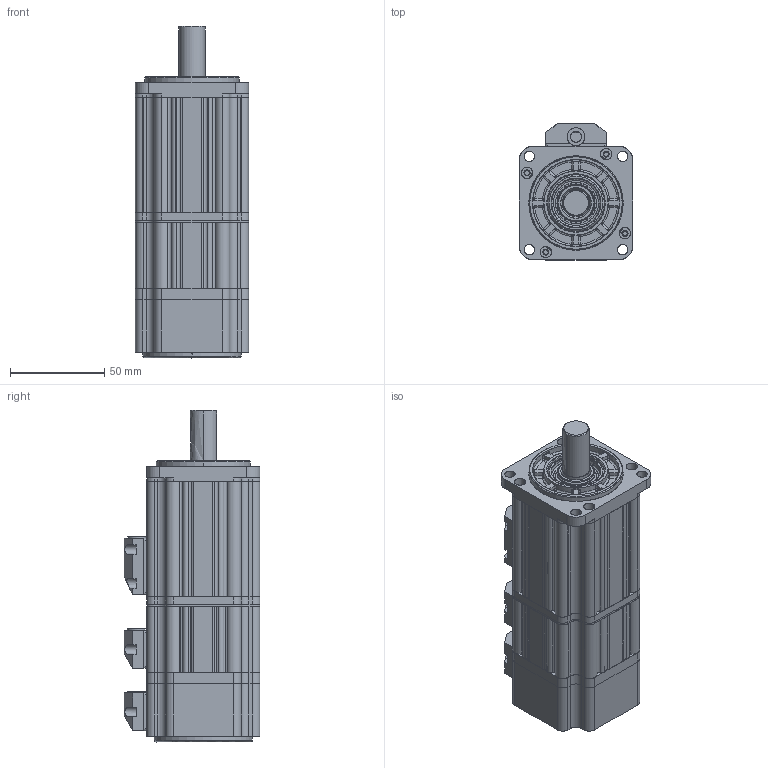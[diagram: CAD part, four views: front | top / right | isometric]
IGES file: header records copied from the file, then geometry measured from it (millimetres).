
Start section: SolidWorks IGES file using analytic representation for surfaces
Global section: file name: E:\est2012\d\17年任务\2017.01.04 外海需求电机3D图升级归档\EMJ-02APA24\EMJ-02(APA24,AFA24)with holding brake.IGS,15HSolidWorks; native system: 2015; preprocessor: SolidWorks 2015; author: hongyunting; date: 170106.105130; units: millimetre
Bounding box: 60 x 72 x 176 mm (x, y, z)
Surface area: 58388 mm2 (no closed solid volume)
Topology: 0 solids, 0 shells, 590 faces, 9088 edges, 9052 vertices
Faces by surface type: revolution 354, bspline 236
